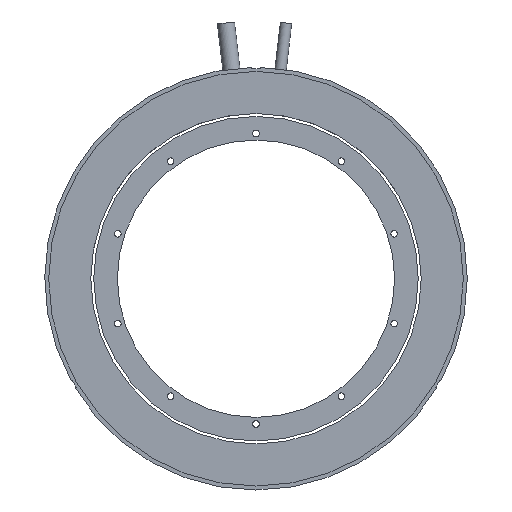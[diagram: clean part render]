
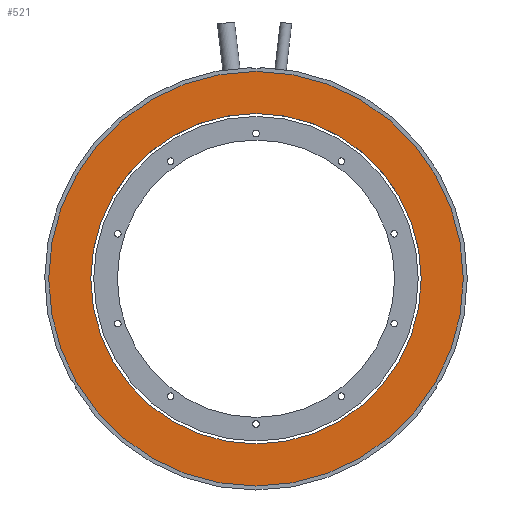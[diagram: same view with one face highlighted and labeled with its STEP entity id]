
A CAD part, front view. The second image highlights one B-rep face of the part: STEP entity #521.
In plain terms, the highlighted planar face has unit normal (0, -1, 0) as drawn and (0, 0, -1) by its records, which use the part's own axes.
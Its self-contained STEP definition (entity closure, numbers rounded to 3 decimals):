
#59 = AXIS2_PLACEMENT_3D ( 'NONE', #1160, #2060, #839 ) ;
#259 = ORIENTED_EDGE ( 'NONE', *, *, #2052, .T. ) ;
#303 = VERTEX_POINT ( 'NONE', #1239 ) ;
#363 = DIRECTION ( 'NONE',  ( 0., 0., 1. ) ) ;
#445 = CIRCLE ( 'NONE', #784, 62.55 ) ;
#475 = CIRCLE ( 'NONE', #59, 78.5 ) ;
#521 = ADVANCED_FACE ( 'NONE', ( #1712, #1527 ), #1871, .T. ) ;
#526 = EDGE_CURVE ( 'NONE', #2238, #2197, #1793, .T. ) ;
#630 = DIRECTION ( 'NONE',  ( 0., -1., 0. ) ) ;
#663 = CARTESIAN_POINT ( 'NONE',  ( 78.5, 0., 0. ) ) ;
#773 = ORIENTED_EDGE ( 'NONE', *, *, #944, .F. ) ;
#784 = AXIS2_PLACEMENT_3D ( 'NONE', #1754, #363, #1052 ) ;
#821 = DIRECTION ( 'NONE',  ( 1., 0., 0. ) ) ;
#839 = DIRECTION ( 'NONE',  ( 1., 0., 0. ) ) ;
#944 = EDGE_CURVE ( 'NONE', #2197, #2238, #475, .T. ) ;
#1052 = DIRECTION ( 'NONE',  ( 1., 0., 0. ) ) ;
#1082 = AXIS2_PLACEMENT_3D ( 'NONE', #1376, #1227, #1779 ) ;
#1131 = VERTEX_POINT ( 'NONE', #1774 ) ;
#1160 = CARTESIAN_POINT ( 'NONE',  ( 0., 0., 0. ) ) ;
#1227 = DIRECTION ( 'NONE',  ( 0., 0., 1. ) ) ;
#1239 = CARTESIAN_POINT ( 'NONE',  ( 62.55, 0., 0. ) ) ;
#1328 = CARTESIAN_POINT ( 'NONE',  ( 0., 0., 0. ) ) ;
#1376 = CARTESIAN_POINT ( 'NONE',  ( 0., 0., 0. ) ) ;
#1527 = FACE_OUTER_BOUND ( 'NONE', #1875, .T. ) ;
#1690 = DIRECTION ( 'NONE',  ( 0., 0., 1. ) ) ;
#1711 = AXIS2_PLACEMENT_3D ( 'NONE', #1328, #1690, #821 ) ;
#1712 = FACE_BOUND ( 'NONE', #2268, .T. ) ;
#1754 = CARTESIAN_POINT ( 'NONE',  ( 0., 0., 0. ) ) ;
#1774 = CARTESIAN_POINT ( 'NONE',  ( -62.55, 0., 0. ) ) ;
#1779 = DIRECTION ( 'NONE',  ( 1., 0., 0. ) ) ;
#1793 = CIRCLE ( 'NONE', #1711, 78.5 ) ;
#1816 = CARTESIAN_POINT ( 'NONE',  ( 78.5, 0., 0. ) ) ;
#1871 = PLANE ( 'NONE',  #1903 ) ;
#1875 = EDGE_LOOP ( 'NONE', ( #773, #1990 ) ) ;
#1903 = AXIS2_PLACEMENT_3D ( 'NONE', #663, #2222, #630 ) ;
#1939 = ORIENTED_EDGE ( 'NONE', *, *, #2141, .T. ) ;
#1990 = ORIENTED_EDGE ( 'NONE', *, *, #526, .F. ) ;
#2045 = CIRCLE ( 'NONE', #1082, 62.55 ) ;
#2052 = EDGE_CURVE ( 'NONE', #303, #1131, #445, .T. ) ;
#2060 = DIRECTION ( 'NONE',  ( 0., 0., 1. ) ) ;
#2141 = EDGE_CURVE ( 'NONE', #1131, #303, #2045, .T. ) ;
#2197 = VERTEX_POINT ( 'NONE', #1816 ) ;
#2200 = CARTESIAN_POINT ( 'NONE',  ( -78.5, 0., 0. ) ) ;
#2222 = DIRECTION ( 'NONE',  ( 0., 0., -1. ) ) ;
#2238 = VERTEX_POINT ( 'NONE', #2200 ) ;
#2268 = EDGE_LOOP ( 'NONE', ( #259, #1939 ) ) ;
